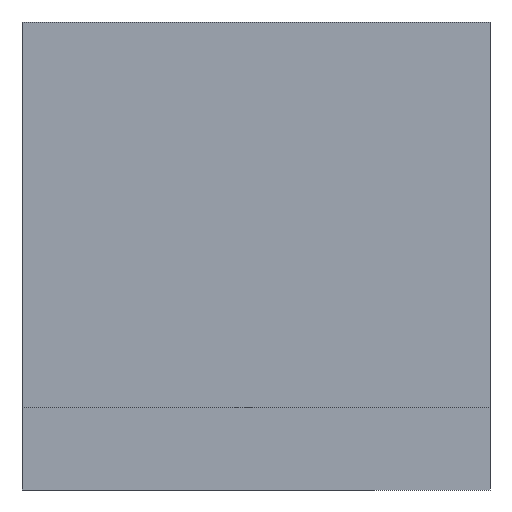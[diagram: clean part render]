
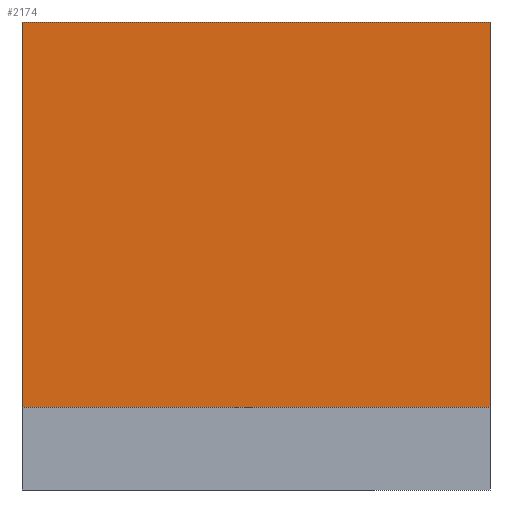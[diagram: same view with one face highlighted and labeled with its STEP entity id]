
A CAD part, front view. The second image highlights one B-rep face of the part: STEP entity #2174.
In plain terms, the highlighted planar face has unit normal (0, -1, 0).
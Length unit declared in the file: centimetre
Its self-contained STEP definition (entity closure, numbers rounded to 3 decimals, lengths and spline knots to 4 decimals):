
#314 = PLANE ( 'NONE',  #970 ) ;
#395 = DIRECTION ( 'NONE',  ( 0., 0., -1. ) ) ;
#610 = CARTESIAN_POINT ( 'NONE',  ( 0., 0., 1000. ) ) ;
#612 = VECTOR ( 'NONE', #2633, 100. ) ;
#613 = EDGE_CURVE ( 'NONE', #2138, #2795, #2604, .T. ) ;
#641 = VECTOR ( 'NONE', #2788, 100. ) ;
#823 = VERTEX_POINT ( 'NONE', #1033 ) ;
#835 = VECTOR ( 'NONE', #2462, 100. ) ;
#929 = CARTESIAN_POINT ( 'NONE',  ( 1000., 0., 177.343 ) ) ;
#970 = AXIS2_PLACEMENT_3D ( 'NONE', #610, #1277, #1515 ) ;
#1025 = LINE ( 'NONE', #2560, #641 ) ;
#1033 = CARTESIAN_POINT ( 'NONE',  ( 0., 0., 177.343 ) ) ;
#1063 = CARTESIAN_POINT ( 'NONE',  ( 0., 0., 1000. ) ) ;
#1151 = EDGE_CURVE ( 'NONE', #1696, #823, #2239, .T. ) ;
#1277 = DIRECTION ( 'NONE',  ( 0., 1., 0. ) ) ;
#1431 = ORIENTED_EDGE ( 'NONE', *, *, #613, .F. ) ;
#1457 = FACE_OUTER_BOUND ( 'NONE', #1549, .T. ) ;
#1471 = EDGE_CURVE ( 'NONE', #2795, #1696, #1025, .T. ) ;
#1492 = VECTOR ( 'NONE', #395, 100. ) ;
#1515 = DIRECTION ( 'NONE',  ( 0., 0., 1. ) ) ;
#1549 = EDGE_LOOP ( 'NONE', ( #2732, #2807, #2890, #1431 ) ) ;
#1696 = VERTEX_POINT ( 'NONE', #929 ) ;
#1958 = CARTESIAN_POINT ( 'NONE',  ( 0., 0., 1000. ) ) ;
#1964 = CARTESIAN_POINT ( 'NONE',  ( 0., 0., 1000. ) ) ;
#2000 = LINE ( 'NONE', #1958, #1492 ) ;
#2008 = CARTESIAN_POINT ( 'NONE',  ( 1000., 0., 1000. ) ) ;
#2010 = EDGE_CURVE ( 'NONE', #2138, #823, #2000, .T. ) ;
#2138 = VERTEX_POINT ( 'NONE', #1964 ) ;
#2174 = ADVANCED_FACE ( 'NONE', ( #1457 ), #314, .F. ) ;
#2239 = LINE ( 'NONE', #2866, #835 ) ;
#2462 = DIRECTION ( 'NONE',  ( -1., 0., 0. ) ) ;
#2560 = CARTESIAN_POINT ( 'NONE',  ( 1000., 0., 1000. ) ) ;
#2604 = LINE ( 'NONE', #1063, #612 ) ;
#2633 = DIRECTION ( 'NONE',  ( 1., 0., 0. ) ) ;
#2732 = ORIENTED_EDGE ( 'NONE', *, *, #2010, .T. ) ;
#2788 = DIRECTION ( 'NONE',  ( 0., 0., -1. ) ) ;
#2795 = VERTEX_POINT ( 'NONE', #2008 ) ;
#2807 = ORIENTED_EDGE ( 'NONE', *, *, #1151, .F. ) ;
#2866 = CARTESIAN_POINT ( 'NONE',  ( 1000., 0., 177.343 ) ) ;
#2890 = ORIENTED_EDGE ( 'NONE', *, *, #1471, .F. ) ;
